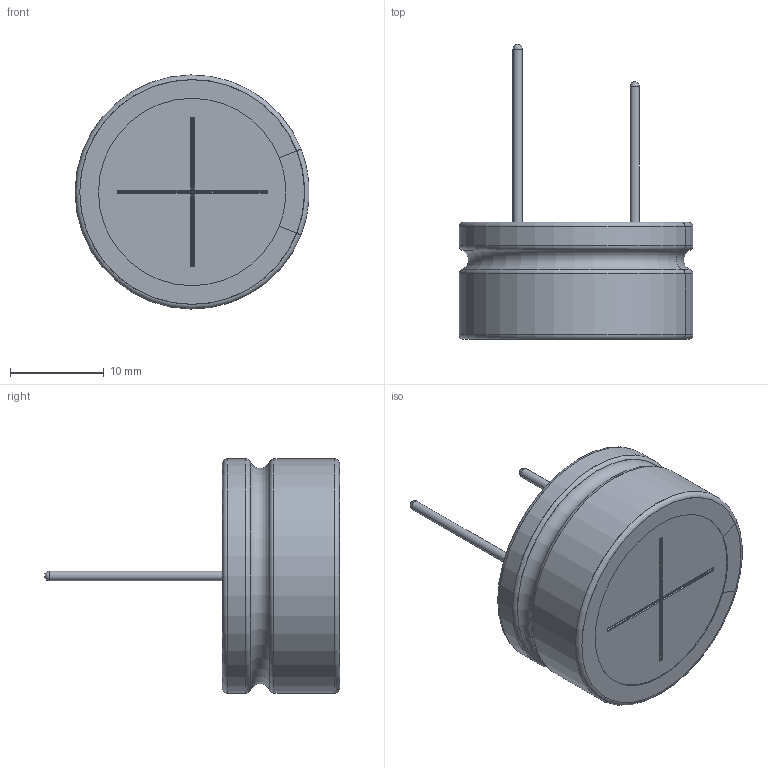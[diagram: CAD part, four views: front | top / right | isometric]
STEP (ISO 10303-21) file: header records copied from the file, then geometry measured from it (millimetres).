
FILE_DESCRIPTION(/* description */ (''),/* implementation_level */ '2;1');
FILE_NAME(/* name */ '25x12.5_Lead.stp',/* time_stamp */ '2017-08-31T16:59:49+09:00',/* author */ (''),/* organization */ (''),/* preprocessor_version */ 'ST-DEVELOPER v16',/* originating_system */ 'SIEMENS PLM Software NX 11.0',/* authorisation */ '');
FILE_SCHEMA (('AUTOMOTIVE_DESIGN { 1 0 10303 214 3 1 1 1 }'));
Length unit declared in the file: millimetre
Products named in the file (1): 25x12.5_Lead_igsstp
Bounding box: 24.96 x 31.5 x 25 mm (x, y, z)
Volume: 5987.9 mm3; surface area: 4752.4 mm2
Topology: 3 solids, 3 shells, 100 faces, 252 edges, 160 vertices
Faces by surface type: cylinder 36, plane 28, torus 26, sphere 6, bspline 4
Full cylindrical faces by diameter (mm): 1 x2, 24.8 x2
Entity records: 3386 total; most frequent: CARTESIAN_POINT 605, DIRECTION 566, ORIENTED_EDGE 468, AXIS2_PLACEMENT_3D 235, EDGE_CURVE 234, VERTEX_POINT 154, CIRCLE 130, EDGE_LOOP 114
